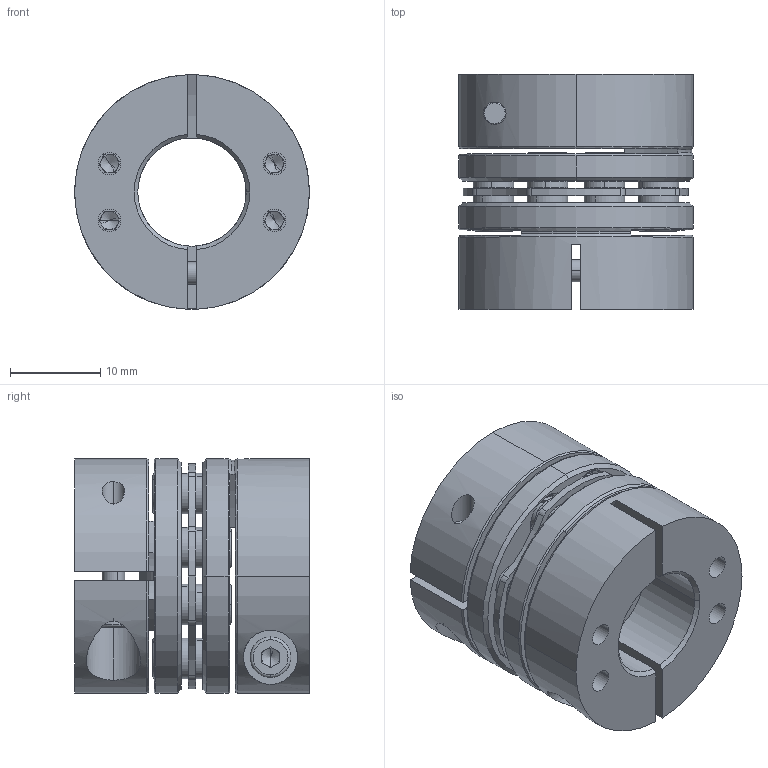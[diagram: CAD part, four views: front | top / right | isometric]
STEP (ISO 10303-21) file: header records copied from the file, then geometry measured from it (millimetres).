
FILE_DESCRIPTION (( 'STEP AP203' ), '1' );
FILE_NAME ('LDG-D26-12-12.STEP', '2021-10-28T04:31:34', ( '' ), ( '' ), 'SwSTEP 2.0', 'SolidWorks 2018', '' );
FILE_SCHEMA (( 'CONFIG_CONTROL_DESIGN' ));
Length unit declared in the file: millimetre
Products named in the file (2): 錨璃2^LDG-D26蚾饜芞1; LDG-D26-12-12
Assembly tree (1 placements, depth 2):
  LDG-D26-12-12
    錨璃2^LDG-D26蚾饜芞1
Bounding box: 26 x 26 x 26 mm (x, y, z)
Volume: 8777.3 mm3; surface area: 8719.3 mm2
Topology: 1 solids, 21 shells, 765 faces, 1872 edges, 1159 vertices
Faces by surface type: cylinder 301, plane 244, cone 200, torus 20
Entity records: 23057 total; most frequent: DIRECTION 4281, CARTESIAN_POINT 4164, ORIENTED_EDGE 3688, EDGE_CURVE 1844, AXIS2_PLACEMENT_3D 1740, VERTEX_POINT 1159, CIRCLE 971, EDGE_LOOP 909
